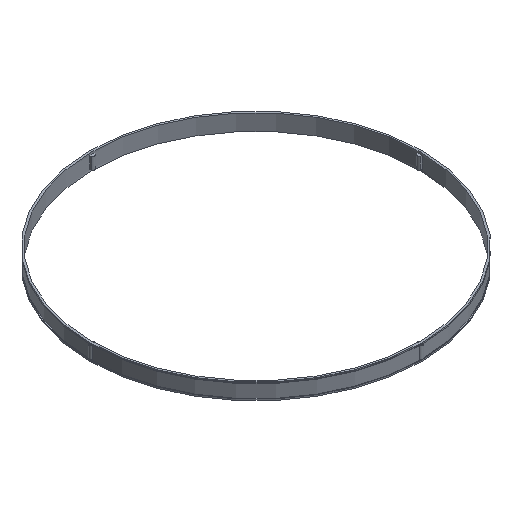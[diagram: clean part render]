
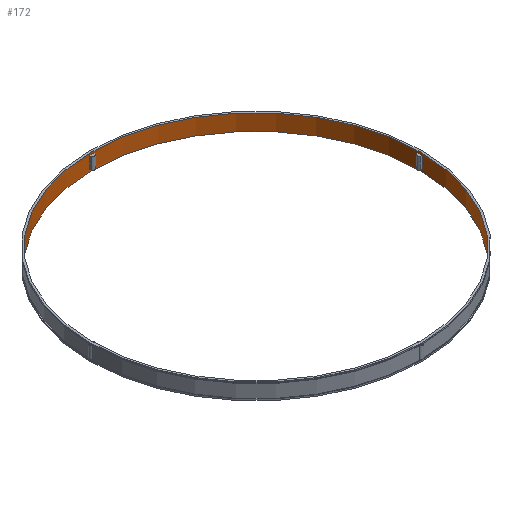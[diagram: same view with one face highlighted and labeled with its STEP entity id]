
A CAD part, isometric view. The second image highlights one B-rep face of the part: STEP entity #172.
In plain terms, the highlighted cylindrical face has radius 122 mm (diameter 244 mm), a full revolution.
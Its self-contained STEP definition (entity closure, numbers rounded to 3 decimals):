
#172=ADVANCED_FACE('',(#365,#366,#367,#368,#369,#370),#220,.F.);
#220=CYLINDRICAL_SURFACE('',#893,122.);
#239=LINE('',#1247,#303);
#240=LINE('',#1251,#304);
#241=LINE('',#1255,#305);
#242=LINE('',#1259,#306);
#243=LINE('',#1263,#307);
#244=LINE('',#1267,#308);
#245=LINE('',#1268,#309);
#246=LINE('',#1273,#310);
#303=VECTOR('',#998,1.);
#304=VECTOR('',#1001,1.);
#305=VECTOR('',#1004,1.);
#306=VECTOR('',#1007,1.);
#307=VECTOR('',#1010,1.);
#308=VECTOR('',#1013,1.);
#309=VECTOR('',#1014,1.);
#310=VECTOR('',#1017,1.);
#365=FACE_BOUND('',#389,.T.);
#366=FACE_BOUND('',#390,.T.);
#367=FACE_BOUND('',#391,.T.);
#368=FACE_BOUND('',#392,.T.);
#369=FACE_BOUND('',#393,.T.);
#370=FACE_BOUND('',#394,.T.);
#389=EDGE_LOOP('',(#465));
#390=EDGE_LOOP('',(#466));
#391=EDGE_LOOP('',(#467,#468,#469,#470));
#392=EDGE_LOOP('',(#471,#472,#473,#474));
#393=EDGE_LOOP('',(#475,#476,#477,#478));
#394=EDGE_LOOP('',(#479,#480,#481,#482));
#465=ORIENTED_EDGE('',*,*,#745,.F.);
#466=ORIENTED_EDGE('',*,*,#746,.T.);
#467=ORIENTED_EDGE('',*,*,#747,.F.);
#468=ORIENTED_EDGE('',*,*,#748,.T.);
#469=ORIENTED_EDGE('',*,*,#749,.T.);
#470=ORIENTED_EDGE('',*,*,#750,.T.);
#471=ORIENTED_EDGE('',*,*,#751,.F.);
#472=ORIENTED_EDGE('',*,*,#752,.T.);
#473=ORIENTED_EDGE('',*,*,#753,.T.);
#474=ORIENTED_EDGE('',*,*,#754,.T.);
#475=ORIENTED_EDGE('',*,*,#755,.F.);
#476=ORIENTED_EDGE('',*,*,#756,.T.);
#477=ORIENTED_EDGE('',*,*,#757,.T.);
#478=ORIENTED_EDGE('',*,*,#758,.T.);
#479=ORIENTED_EDGE('',*,*,#759,.F.);
#480=ORIENTED_EDGE('',*,*,#760,.T.);
#481=ORIENTED_EDGE('',*,*,#761,.F.);
#482=ORIENTED_EDGE('',*,*,#762,.F.);
#673=VERTEX_POINT('',#1241);
#674=VERTEX_POINT('',#1243);
#675=VERTEX_POINT('',#1245);
#676=VERTEX_POINT('',#1246);
#677=VERTEX_POINT('',#1248);
#678=VERTEX_POINT('',#1250);
#679=VERTEX_POINT('',#1253);
#680=VERTEX_POINT('',#1254);
#681=VERTEX_POINT('',#1256);
#682=VERTEX_POINT('',#1258);
#683=VERTEX_POINT('',#1261);
#684=VERTEX_POINT('',#1262);
#685=VERTEX_POINT('',#1264);
#686=VERTEX_POINT('',#1266);
#687=VERTEX_POINT('',#1269);
#688=VERTEX_POINT('',#1270);
#689=VERTEX_POINT('',#1272);
#690=VERTEX_POINT('',#1274);
#745=EDGE_CURVE('',#673,#673,#841,.T.);
#746=EDGE_CURVE('',#674,#674,#842,.T.);
#747=EDGE_CURVE('',#675,#676,#843,.T.);
#748=EDGE_CURVE('',#675,#677,#239,.T.);
#749=EDGE_CURVE('',#677,#678,#844,.T.);
#750=EDGE_CURVE('',#678,#676,#240,.T.);
#751=EDGE_CURVE('',#679,#680,#845,.T.);
#752=EDGE_CURVE('',#679,#681,#241,.T.);
#753=EDGE_CURVE('',#681,#682,#846,.T.);
#754=EDGE_CURVE('',#682,#680,#242,.T.);
#755=EDGE_CURVE('',#683,#684,#847,.T.);
#756=EDGE_CURVE('',#683,#685,#243,.T.);
#757=EDGE_CURVE('',#685,#686,#848,.T.);
#758=EDGE_CURVE('',#686,#684,#244,.T.);
#759=EDGE_CURVE('',#687,#688,#245,.T.);
#760=EDGE_CURVE('',#687,#689,#849,.T.);
#761=EDGE_CURVE('',#690,#689,#246,.T.);
#762=EDGE_CURVE('',#688,#690,#850,.T.);
#841=CIRCLE('',#883,122.);
#842=CIRCLE('',#884,122.);
#843=CIRCLE('',#885,122.);
#844=CIRCLE('',#886,122.);
#845=CIRCLE('',#887,122.);
#846=CIRCLE('',#888,122.);
#847=CIRCLE('',#889,122.);
#848=CIRCLE('',#890,122.);
#849=CIRCLE('',#891,122.);
#850=CIRCLE('',#892,122.);
#883=AXIS2_PLACEMENT_3D('',#1240,#992,#993);
#884=AXIS2_PLACEMENT_3D('',#1242,#994,#995);
#885=AXIS2_PLACEMENT_3D('',#1244,#996,#997);
#886=AXIS2_PLACEMENT_3D('',#1249,#999,#1000);
#887=AXIS2_PLACEMENT_3D('',#1252,#1002,#1003);
#888=AXIS2_PLACEMENT_3D('',#1257,#1005,#1006);
#889=AXIS2_PLACEMENT_3D('',#1260,#1008,#1009);
#890=AXIS2_PLACEMENT_3D('',#1265,#1011,#1012);
#891=AXIS2_PLACEMENT_3D('',#1271,#1015,#1016);
#892=AXIS2_PLACEMENT_3D('',#1275,#1018,#1019);
#893=AXIS2_PLACEMENT_3D('',#1276,#1020,#1021);
#992=DIRECTION('',(0.,0.,1.));
#993=DIRECTION('',(1.,0.,0.));
#994=DIRECTION('',(0.,0.,1.));
#995=DIRECTION('',(1.,0.,0.));
#996=DIRECTION('',(0.,0.,1.));
#997=DIRECTION('',(1.,0.,0.));
#998=DIRECTION('',(0.,0.,-1.));
#999=DIRECTION('',(0.,0.,1.));
#1000=DIRECTION('',(1.,0.,0.));
#1001=DIRECTION('',(0.,0.,1.));
#1002=DIRECTION('',(0.,0.,1.));
#1003=DIRECTION('',(1.,0.,0.));
#1004=DIRECTION('',(0.,0.,-1.));
#1005=DIRECTION('',(0.,0.,1.));
#1006=DIRECTION('',(1.,0.,0.));
#1007=DIRECTION('',(0.,0.,1.));
#1008=DIRECTION('',(0.,0.,1.));
#1009=DIRECTION('',(1.,0.,0.));
#1010=DIRECTION('',(0.,0.,-1.));
#1011=DIRECTION('',(0.,0.,1.));
#1012=DIRECTION('',(1.,0.,0.));
#1013=DIRECTION('',(0.,0.,1.));
#1014=DIRECTION('',(0.,0.,-1.));
#1015=DIRECTION('',(0.,0.,-1.));
#1016=DIRECTION('',(-1.,0.,0.));
#1017=DIRECTION('',(0.,0.,1.));
#1018=DIRECTION('',(0.,0.,-1.));
#1019=DIRECTION('',(-1.,0.,0.));
#1020=DIRECTION('',(0.,0.,-1.));
#1021=DIRECTION('',(-1.,0.,0.));
#1240=CARTESIAN_POINT('',(0.,0.,0.));
#1241=CARTESIAN_POINT('',(122.,0.,0.));
#1242=CARTESIAN_POINT('',(0.,0.,12.));
#1243=CARTESIAN_POINT('',(122.,0.,12.));
#1244=CARTESIAN_POINT('',(0.,0.,10.5));
#1245=CARTESIAN_POINT('',(121.991,-1.471,10.5));
#1246=CARTESIAN_POINT('',(121.991,1.471,10.5));
#1247=CARTESIAN_POINT('',(121.991,-1.471,12.));
#1248=CARTESIAN_POINT('',(121.991,-1.471,1.5));
#1249=CARTESIAN_POINT('',(0.,0.,1.5));
#1250=CARTESIAN_POINT('',(121.991,1.471,1.5));
#1251=CARTESIAN_POINT('',(121.991,1.471,12.));
#1252=CARTESIAN_POINT('',(0.,0.,10.5));
#1253=CARTESIAN_POINT('',(1.471,121.991,10.5));
#1254=CARTESIAN_POINT('',(-1.471,121.991,10.5));
#1255=CARTESIAN_POINT('',(1.471,121.991,12.));
#1256=CARTESIAN_POINT('',(1.471,121.991,1.5));
#1257=CARTESIAN_POINT('',(0.,0.,1.5));
#1258=CARTESIAN_POINT('',(-1.471,121.991,1.5));
#1259=CARTESIAN_POINT('',(-1.471,121.991,12.));
#1260=CARTESIAN_POINT('',(0.,0.,10.5));
#1261=CARTESIAN_POINT('',(-121.991,1.471,10.5));
#1262=CARTESIAN_POINT('',(-121.991,-1.471,10.5));
#1263=CARTESIAN_POINT('',(-121.991,1.471,12.));
#1264=CARTESIAN_POINT('',(-121.991,1.471,1.5));
#1265=CARTESIAN_POINT('',(0.,0.,1.5));
#1266=CARTESIAN_POINT('',(-121.991,-1.471,1.5));
#1267=CARTESIAN_POINT('',(-121.991,-1.471,12.));
#1268=CARTESIAN_POINT('',(1.471,-121.991,12.));
#1269=CARTESIAN_POINT('',(1.471,-121.991,10.5));
#1270=CARTESIAN_POINT('',(1.471,-121.991,1.5));
#1271=CARTESIAN_POINT('',(0.,0.,10.5));
#1272=CARTESIAN_POINT('',(-1.471,-121.991,10.5));
#1273=CARTESIAN_POINT('',(-1.471,-121.991,12.));
#1274=CARTESIAN_POINT('',(-1.471,-121.991,1.5));
#1275=CARTESIAN_POINT('',(0.,0.,1.5));
#1276=CARTESIAN_POINT('',(0.,0.,12.));
